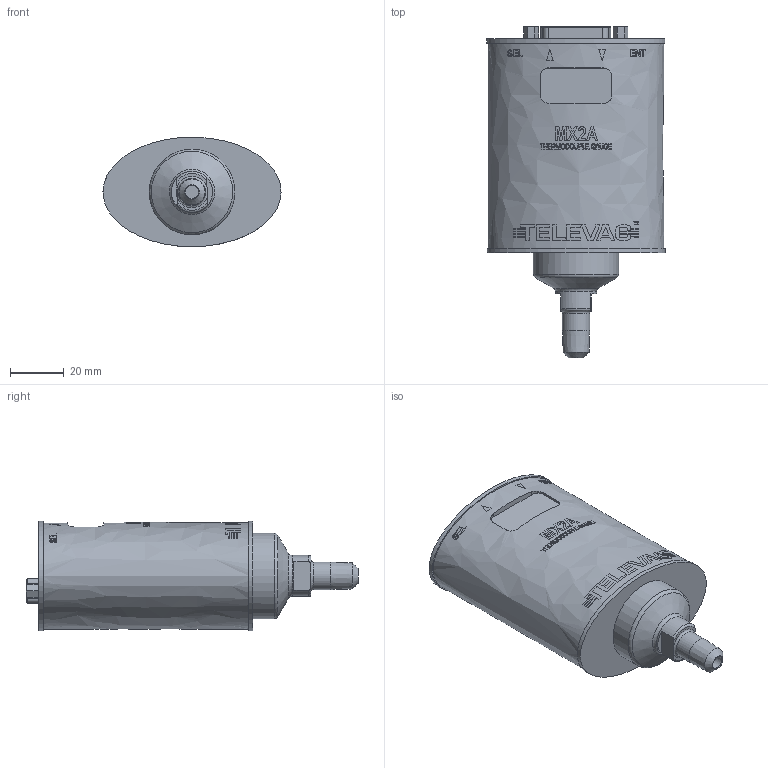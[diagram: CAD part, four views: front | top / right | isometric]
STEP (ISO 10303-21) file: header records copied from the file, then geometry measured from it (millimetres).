
FILE_DESCRIPTION (( 'STEP AP214' ), '1' );
FILE_NAME ('8910-101.STEP', '2023-05-02T18:17:01', ( '' ), ( '' ), 'SwSTEP 2.0', 'SolidWorks 2022', '' );
FILE_SCHEMA (( 'AUTOMOTIVE_DESIGN' ));
Length unit declared in the file: millimetre
Products named in the file (1): 8910-101
Bounding box: 66.06 x 123.15 x 40.65 mm (x, y, z)
Volume: 176102.2 mm3; surface area: 23968.8 mm2
Topology: 3 solids, 3 shells, 554 faces, 1783 edges, 1356 vertices
Faces by surface type: plane 209, cylinder 163, bspline 95, torus 59, cone 28
Full cylindrical faces by diameter (mm): 4.775 x1, 10.16 x1, 15.24 x1, 31.75 x1
Entity records: 31071 total; most frequent: CARTESIAN_POINT 11156, ORIENTED_EDGE 3526, DIRECTION 2267, EDGE_CURVE 1763, VERTEX_POINT 1350, AXIS2_PLACEMENT_3D 827, EDGE_LOOP 689, VECTOR 613
